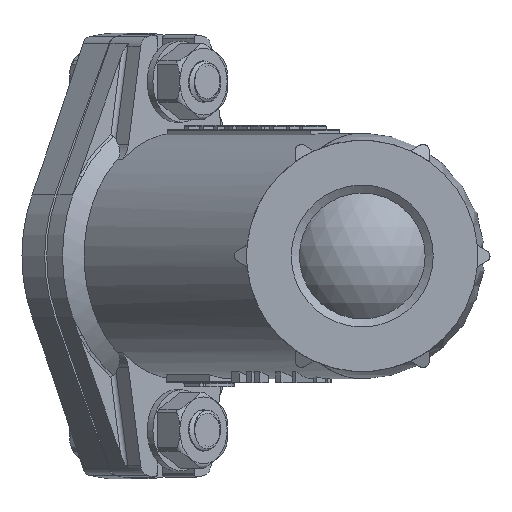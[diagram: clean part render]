
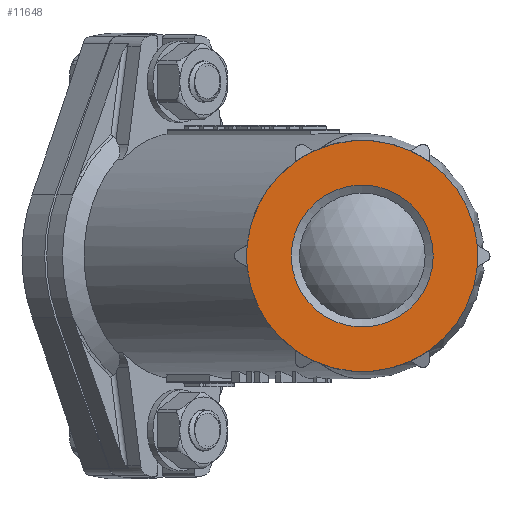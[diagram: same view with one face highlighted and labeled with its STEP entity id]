
A CAD part, left-side view. The second image highlights one B-rep face of the part: STEP entity #11648.
In plain terms, the highlighted planar face has unit normal (-1, 0, 0).
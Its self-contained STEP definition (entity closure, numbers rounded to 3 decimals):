
#91=PLANE('',#12667);
#480=FACE_BOUND('',#4019,.T.);
#3290=FACE_OUTER_BOUND('',#4018,.T.);
#4018=EDGE_LOOP('',(#9009,#9010,#9011,#9012,#9013,#9014,#9015,#9016,#9017,
#9018,#9019,#9020));
#4019=EDGE_LOOP('',(#9021,#9022));
#4668=CIRCLE('',#12421,17.5);
#4669=CIRCLE('',#12422,17.5);
#4719=CIRCLE('',#12496,28.5);
#4766=CIRCLE('',#12571,28.5);
#4767=CIRCLE('',#12574,28.5);
#4773=CIRCLE('',#12616,28.5);
#4774=CIRCLE('',#12618,28.5);
#4775=CIRCLE('',#12623,28.5);
#4776=CIRCLE('',#12625,28.5);
#4777=CIRCLE('',#12630,28.5);
#4778=CIRCLE('',#12632,28.5);
#4779=CIRCLE('',#12637,28.5);
#4780=CIRCLE('',#12640,28.5);
#4797=CIRCLE('',#12666,28.5);
#5116=VERTEX_POINT('',#17735);
#5117=VERTEX_POINT('',#17737);
#5203=VERTEX_POINT('',#18538);
#5204=VERTEX_POINT('',#18540);
#5417=VERTEX_POINT('',#19415);
#5418=VERTEX_POINT('',#19417);
#5419=VERTEX_POINT('',#19421);
#5454=VERTEX_POINT('',#19552);
#5455=VERTEX_POINT('',#19556);
#5456=VERTEX_POINT('',#19559);
#5457=VERTEX_POINT('',#19568);
#5458=VERTEX_POINT('',#19570);
#5459=VERTEX_POINT('',#19579);
#5460=VERTEX_POINT('',#19581);
#6346=EDGE_CURVE('',#5116,#5117,#4668,.T.);
#6347=EDGE_CURVE('',#5117,#5116,#4669,.T.);
#6451=EDGE_CURVE('',#5204,#5203,#4719,.T.);
#6686=EDGE_CURVE('',#5417,#5418,#4766,.T.);
#6688=EDGE_CURVE('',#5419,#5417,#4767,.T.);
#6753=EDGE_CURVE('',#5454,#5419,#4773,.T.);
#6758=EDGE_CURVE('',#5455,#5456,#4774,.T.);
#6761=EDGE_CURVE('',#5418,#5455,#4775,.T.);
#6764=EDGE_CURVE('',#5457,#5458,#4776,.T.);
#6767=EDGE_CURVE('',#5456,#5457,#4777,.T.);
#6770=EDGE_CURVE('',#5459,#5460,#4778,.T.);
#6773=EDGE_CURVE('',#5458,#5459,#4779,.T.);
#6775=EDGE_CURVE('',#5460,#5204,#4780,.T.);
#6811=EDGE_CURVE('',#5203,#5454,#4797,.T.);
#9009=ORIENTED_EDGE('',*,*,#6811,.T.);
#9010=ORIENTED_EDGE('',*,*,#6753,.T.);
#9011=ORIENTED_EDGE('',*,*,#6688,.T.);
#9012=ORIENTED_EDGE('',*,*,#6686,.T.);
#9013=ORIENTED_EDGE('',*,*,#6761,.T.);
#9014=ORIENTED_EDGE('',*,*,#6758,.T.);
#9015=ORIENTED_EDGE('',*,*,#6767,.T.);
#9016=ORIENTED_EDGE('',*,*,#6764,.T.);
#9017=ORIENTED_EDGE('',*,*,#6773,.T.);
#9018=ORIENTED_EDGE('',*,*,#6770,.T.);
#9019=ORIENTED_EDGE('',*,*,#6775,.T.);
#9020=ORIENTED_EDGE('',*,*,#6451,.T.);
#9021=ORIENTED_EDGE('',*,*,#6347,.F.);
#9022=ORIENTED_EDGE('',*,*,#6346,.F.);
#11648=ADVANCED_FACE('',(#3290,#480),#91,.T.);
#12421=AXIS2_PLACEMENT_3D('',#17738,#13962,#13963);
#12422=AXIS2_PLACEMENT_3D('',#17739,#13964,#13965);
#12496=AXIS2_PLACEMENT_3D('',#18541,#14125,#14126);
#12571=AXIS2_PLACEMENT_3D('',#19419,#14391,#14392);
#12574=AXIS2_PLACEMENT_3D('',#19423,#14397,#14398);
#12616=AXIS2_PLACEMENT_3D('',#19553,#14534,#14535);
#12618=AXIS2_PLACEMENT_3D('',#19561,#14542,#14543);
#12623=AXIS2_PLACEMENT_3D('',#19566,#14552,#14553);
#12625=AXIS2_PLACEMENT_3D('',#19572,#14558,#14559);
#12630=AXIS2_PLACEMENT_3D('',#19577,#14568,#14569);
#12632=AXIS2_PLACEMENT_3D('',#19583,#14574,#14575);
#12637=AXIS2_PLACEMENT_3D('',#19588,#14584,#14585);
#12640=AXIS2_PLACEMENT_3D('',#19591,#14590,#14591);
#12666=AXIS2_PLACEMENT_3D('',#19693,#14655,#14656);
#12667=AXIS2_PLACEMENT_3D('',#19694,#14657,#14658);
#13962=DIRECTION('center_axis',(-1.,0.,0.));
#13963=DIRECTION('ref_axis',(0.,0.,1.));
#13964=DIRECTION('center_axis',(-1.,0.,0.));
#13965=DIRECTION('ref_axis',(0.,0.,1.));
#14125=DIRECTION('center_axis',(-1.,0.,0.));
#14126=DIRECTION('ref_axis',(0.,0.,1.));
#14391=DIRECTION('center_axis',(-1.,0.,0.));
#14392=DIRECTION('ref_axis',(0.,0.,1.));
#14397=DIRECTION('center_axis',(-1.,0.,0.));
#14398=DIRECTION('ref_axis',(0.,0.,1.));
#14534=DIRECTION('center_axis',(-1.,0.,0.));
#14535=DIRECTION('ref_axis',(0.,0.,1.));
#14542=DIRECTION('center_axis',(-1.,0.,0.));
#14543=DIRECTION('ref_axis',(0.,0.,1.));
#14552=DIRECTION('center_axis',(-1.,0.,0.));
#14553=DIRECTION('ref_axis',(0.,0.,1.));
#14558=DIRECTION('center_axis',(-1.,0.,0.));
#14559=DIRECTION('ref_axis',(0.,0.,1.));
#14568=DIRECTION('center_axis',(-1.,0.,0.));
#14569=DIRECTION('ref_axis',(0.,0.,1.));
#14574=DIRECTION('center_axis',(-1.,0.,0.));
#14575=DIRECTION('ref_axis',(0.,0.,1.));
#14584=DIRECTION('center_axis',(-1.,0.,0.));
#14585=DIRECTION('ref_axis',(0.,0.,1.));
#14590=DIRECTION('center_axis',(-1.,0.,0.));
#14591=DIRECTION('ref_axis',(0.,0.,1.));
#14655=DIRECTION('center_axis',(-1.,0.,0.));
#14656=DIRECTION('ref_axis',(0.,0.,1.));
#14657=DIRECTION('center_axis',(-1.,0.,0.));
#14658=DIRECTION('ref_axis',(0.,0.,1.));
#17735=CARTESIAN_POINT('',(0.,0.,
-17.5));
#17737=CARTESIAN_POINT('',(0.,0.,17.5));
#17738=CARTESIAN_POINT('Origin',(0.,0.,0.));
#17739=CARTESIAN_POINT('Origin',(0.,0.,0.));
#18538=CARTESIAN_POINT('',(0.,11.875,25.908));
#18540=CARTESIAN_POINT('',(0.,-11.875,25.908));
#18541=CARTESIAN_POINT('Origin',(0.,0.,0.));
#19415=CARTESIAN_POINT('',(0.,28.375,-2.67));
#19417=CARTESIAN_POINT('',(0.,16.5,-23.238));
#19419=CARTESIAN_POINT('Origin',(0.,0.,0.));
#19421=CARTESIAN_POINT('',(0.,28.375,2.67));
#19423=CARTESIAN_POINT('Origin',(0.,0.,0.));
#19552=CARTESIAN_POINT('',(0.,16.5,23.238));
#19553=CARTESIAN_POINT('Origin',(0.,0.,0.));
#19556=CARTESIAN_POINT('',(0.,11.875,-25.908));
#19559=CARTESIAN_POINT('',(0.,-11.875,-25.908));
#19561=CARTESIAN_POINT('Origin',(0.,0.,0.));
#19566=CARTESIAN_POINT('Origin',(0.,0.,0.));
#19568=CARTESIAN_POINT('',(0.,-16.5,-23.238));
#19570=CARTESIAN_POINT('',(0.,-28.375,-2.67));
#19572=CARTESIAN_POINT('Origin',(0.,0.,0.));
#19577=CARTESIAN_POINT('Origin',(0.,0.,0.));
#19579=CARTESIAN_POINT('',(0.,-28.375,2.67));
#19581=CARTESIAN_POINT('',(0.,-16.5,23.238));
#19583=CARTESIAN_POINT('Origin',(0.,0.,0.));
#19588=CARTESIAN_POINT('Origin',(0.,0.,0.));
#19591=CARTESIAN_POINT('Origin',(0.,0.,0.));
#19693=CARTESIAN_POINT('Origin',(0.,0.,0.));
#19694=CARTESIAN_POINT('Origin',(0.,-17.5,0.));
